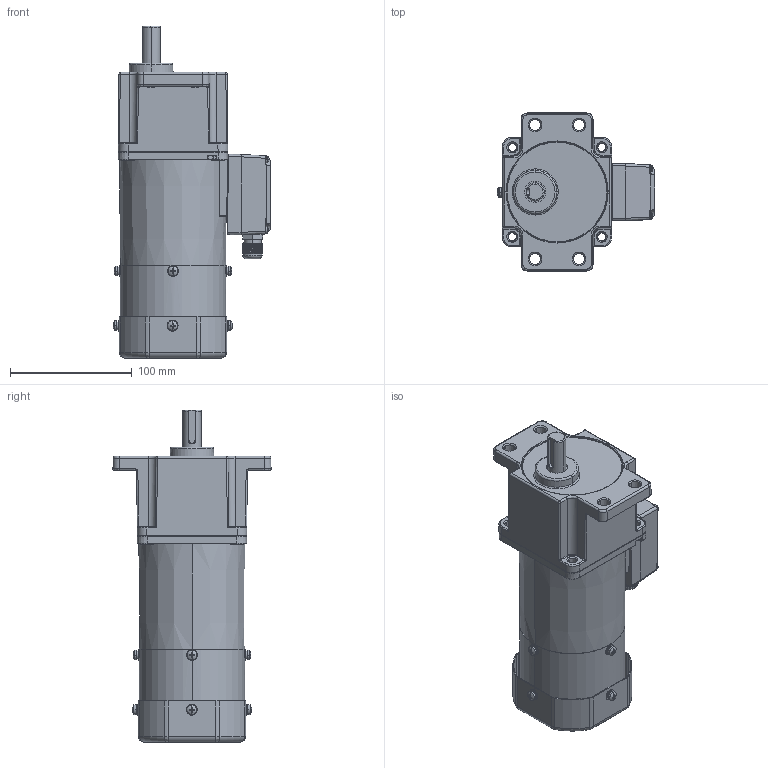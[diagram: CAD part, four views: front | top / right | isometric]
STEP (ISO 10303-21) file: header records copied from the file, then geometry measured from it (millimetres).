
FILE_DESCRIPTION (( 'STEP AP203' ), '1' );
FILE_NAME ('5RK60GU-CMFT(5GU3K-200K).STEP', '2023-08-08T06:06:49', ( 'Windows User' ), ( 'P R C' ), 'SwSTEP 2.0', 'SolidWorks 2019', '' );
FILE_SCHEMA (( 'CONFIG_CONTROL_DESIGN' ));
Length unit declared in the file: millimetre
Products named in the file (14): ^_70TSJXHG____5RK60GU-CMFT(5GU3K-200K)(2)_5RK60GU-CMFT(5GU3K-200K); 葩璃 (3) ^_70TSJXHG____5RK60GU-CMFT(5GU3K-200K)(2)_5RK60GU-CMFT(5GU3K-200K); .sldprt^5RK60GU-CMFT(5GU3K-200K)(2)_5RK60GU-CMFT(5GU3K-200K); 5RK60GU-CMFT(5GU3K-200K)(2)^5RK60GU-CMFT(5GU3K-200K); 葩璃 (2) ^_70TSJXHG____5RK60GU-CMFT(5GU3K-200K)(2)_5RK60GU-CMFT(5GU3K-200K); ^__5RK60GU-CMFT(5GU3K-200K)(2)_5RK60GU-CMFT(5GU3K-200K); 70TSJXHG^___5RK60GU-CMFT(5GU3K-200K)(2)_5RK60GU-CMFT(5GU3K-200K); ^70TSJXHG____5RK60GU-CMFT(5GU3K-200K)(2)_5RK60GU-CMFT(5GU3K-200K); ^___5RK60GU-CMFT(5GU3K-200K)(2)_5RK60GU-CMFT(5GU3K-200K); 葩璃 (2) ^___5RK60GU-CMFT(5GU3K-200K)(2)_5RK60GU-CMFT(5GU3K-200K); 5RK60GU-CMFT(5GU3K-200K); ^5RK60GU-CMFT(5GU3K-200K)(2)_5RK60GU-CMFT(5GU3K-200K); ^_5RK60GU-CMFT(5GU3K-200K)(2)_5RK60GU-CMFT(5GU3K-200K)
Assembly tree (16 placements, depth 8):
  5RK60GU-CMFT(5GU3K-200K)
    5RK60GU-CMFT(5GU3K-200K)(2)^5RK60GU-CMFT(5GU3K-200K)
      ^5RK60GU-CMFT(5GU3K-200K)(2)_5RK60GU-CMFT(5GU3K-200K)
        ^_5RK60GU-CMFT(5GU3K-200K)(2)_5RK60GU-CMFT(5GU3K-200K)
          ^__5RK60GU-CMFT(5GU3K-200K)(2)_5RK60GU-CMFT(5GU3K-200K)
            70TSJXHG^___5RK60GU-CMFT(5GU3K-200K)(2)_5RK60GU-CMFT(5GU3K-200K)
              ^70TSJXHG____5RK60GU-CMFT(5GU3K-200K)(2)_5RK60GU-CMFT(5GU3K-200K)
                ^_70TSJXHG____5RK60GU-CMFT(5GU3K-200K)(2)_5RK60GU-CMFT(5GU3K-200K)
                葩璃 (2) ^_70TSJXHG____5RK60GU-CMFT(5GU3K-200K)(2)_5RK60GU-CMFT(5GU3K-200K)
                葩璃 (3) ^_70TSJXHG____5RK60GU-CMFT(5GU3K-200K)(2)_5RK60GU-CMFT(5GU3K-200K)  x4
            ^___5RK60GU-CMFT(5GU3K-200K)(2)_5RK60GU-CMFT(5GU3K-200K)
            葩璃 (2) ^___5RK60GU-CMFT(5GU3K-200K)(2)_5RK60GU-CMFT(5GU3K-200K)
          ^__5RK60GU-CMFT(5GU3K-200K)(2)_5RK60GU-CMFT(5GU3K-200K)
      .sldprt^5RK60GU-CMFT(5GU3K-200K)(2)_5RK60GU-CMFT(5GU3K-200K)
Bounding box: 129.69 x 129.97 x 273 mm (x, y, z)
Volume: 1278071.9 mm3; surface area: 193828.2 mm2
Topology: 34 solids, 34 shells, 2049 faces, 5189 edges, 3210 vertices
Faces by surface type: cylinder 809, plane 493, cone 406, bspline 133, torus 118, sphere 90
Entity records: 63750 total; most frequent: CARTESIAN_POINT 22948, DIRECTION 8308, ORIENTED_EDGE 8298, EDGE_CURVE 4149, AXIS2_PLACEMENT_3D 3368, VERTEX_POINT 2594, CIRCLE 1814, EDGE_LOOP 1793
